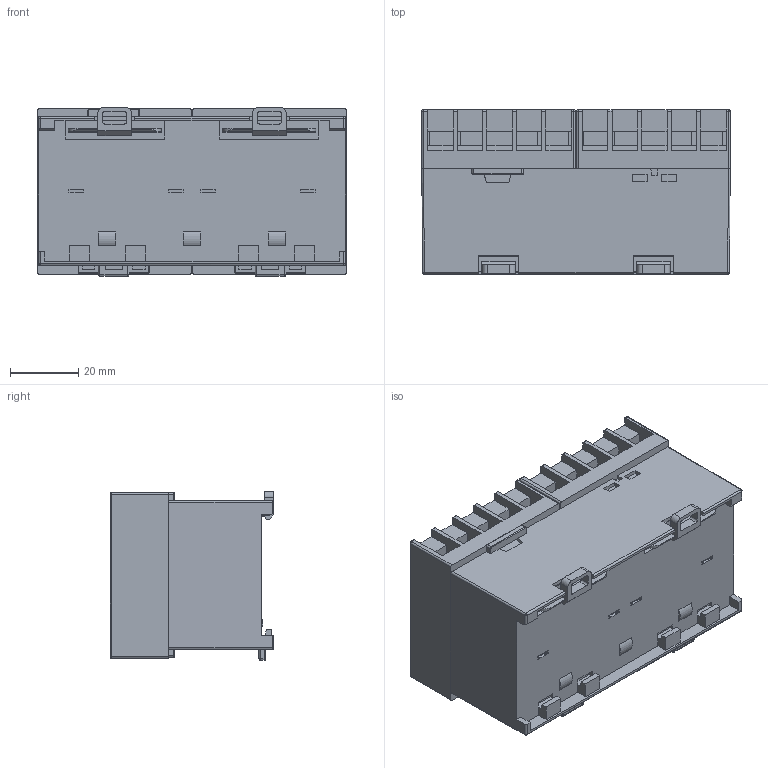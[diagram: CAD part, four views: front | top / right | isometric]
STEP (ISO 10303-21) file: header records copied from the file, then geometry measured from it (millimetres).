
FILE_DESCRIPTION (( 'STEP AP203' ), '1' );
FILE_NAME ('K1W..D..MC.STEP', '2014-03-11T04:59:28', ( '' ), ( '' ), 'SwSTEP 2.0', 'SolidWorks 2014', '' );
FILE_SCHEMA (( 'CONFIG_CONTROL_DESIGN' ));
Length unit declared in the file: millimetre
Products named in the file (1): K1W..D..MC
Bounding box: 90.3 x 48 x 49.4 mm (x, y, z)
Volume: 168224.9 mm3; surface area: 31903.8 mm2
Topology: 1 solids, 1 shells, 688 faces, 1993 edges, 1296 vertices
Faces by surface type: plane 488, cylinder 170, sphere 22, torus 6, bspline 2
Entity records: 22424 total; most frequent: CARTESIAN_POINT 4267, ORIENTED_EDGE 3934, DIRECTION 3589, EDGE_CURVE 1967, LINE 1549, VECTOR 1549, VERTEX_POINT 1280, AXIS2_PLACEMENT_3D 1020
